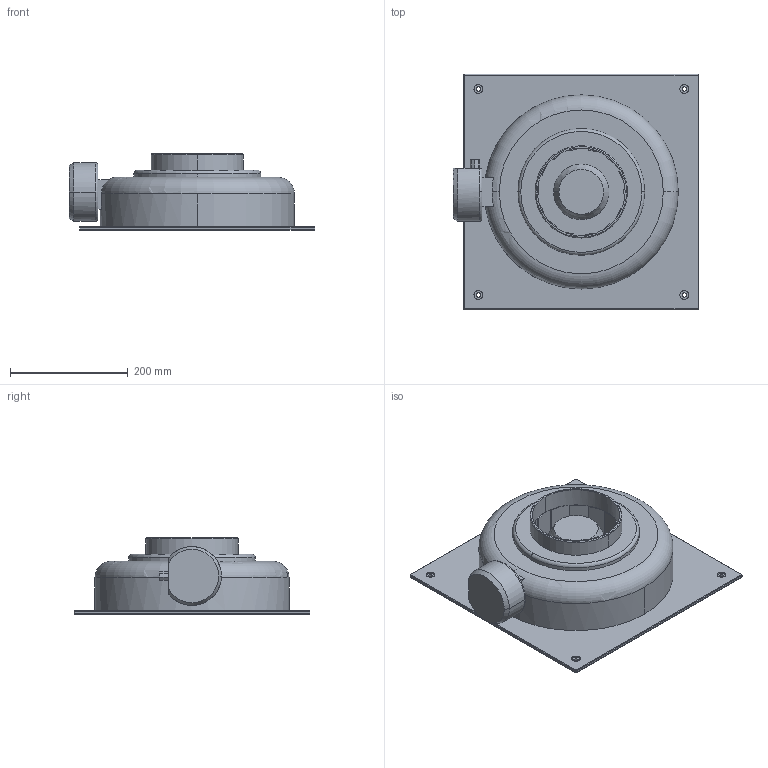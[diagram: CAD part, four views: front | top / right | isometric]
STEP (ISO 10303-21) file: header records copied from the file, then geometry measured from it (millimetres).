
FILE_DESCRIPTION(('STEP AP214'),'1');
FILE_NAME('fan_5145626800.stp','2017-03-31T18:13:21',('TraceParts'),('TraceParts S.A.'),'Spatial InterOp 3D',' ',' ');
FILE_SCHEMA(('automotive_design'));
Length unit declared in the file: millimetre
Products named in the file (1): fan_5145626800
Bounding box: 418 x 400 x 130 mm (x, y, z)
Volume: 2761264.3 mm3; surface area: 798471.3 mm2
Topology: 1 solids, 1 shells, 171 faces, 498 edges, 320 vertices
Faces by surface type: plane 102, cylinder 44, torus 13, sphere 8, cone 4
Entity records: 7205 total; most frequent: CARTESIAN_POINT 1134, DIRECTION 995, ORIENTED_EDGE 980, EDGE_CURVE 490, AXIS2_PLACEMENT_3D 339, VERTEX_POINT 320, LINE 317, VECTOR 317
